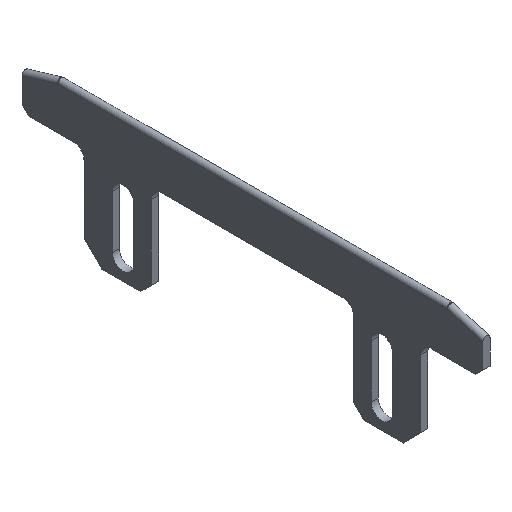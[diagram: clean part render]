
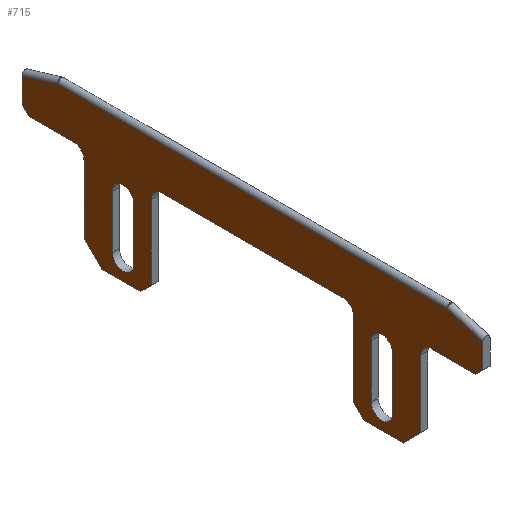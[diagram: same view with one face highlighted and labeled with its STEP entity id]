
A CAD part, isometric view. The second image highlights one B-rep face of the part: STEP entity #715.
In plain terms, the highlighted planar face has unit normal (-1, 0, 0).
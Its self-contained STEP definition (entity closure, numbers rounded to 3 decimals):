
#17=FACE_BOUND('',#107,.T.);
#18=FACE_BOUND('',#108,.T.);
#32=PLANE('',#779);
#66=FACE_OUTER_BOUND('',#106,.T.);
#106=EDGE_LOOP('',(#578,#579,#580,#581,#582,#583,#584,#585,#586,#587,#588,
#589,#590,#591,#592,#593,#594,#595,#596,#597,#598,#599,#600,#601));
#107=EDGE_LOOP('',(#602,#603,#604,#605));
#108=EDGE_LOOP('',(#606,#607,#608,#609));
#130=LINE('',#1025,#206);
#135=LINE('',#1040,#211);
#139=LINE('',#1052,#215);
#144=LINE('',#1067,#220);
#147=LINE('',#1086,#223);
#149=LINE('',#1100,#225);
#152=LINE('',#1107,#228);
#171=LINE('',#1150,#247);
#172=LINE('',#1153,#248);
#174=LINE('',#1156,#250);
#175=LINE('',#1158,#251);
#176=LINE('',#1160,#252);
#177=LINE('',#1162,#253);
#178=LINE('',#1163,#254);
#179=LINE('',#1165,#255);
#180=LINE('',#1167,#256);
#181=LINE('',#1169,#257);
#182=LINE('',#1170,#258);
#183=LINE('',#1172,#259);
#184=LINE('',#1173,#260);
#185=LINE('',#1178,#261);
#186=LINE('',#1181,#262);
#187=LINE('',#1186,#263);
#188=LINE('',#1189,#264);
#206=VECTOR('',#815,10.);
#211=VECTOR('',#828,10.);
#215=VECTOR('',#840,10.);
#220=VECTOR('',#853,10.);
#223=VECTOR('',#874,10.);
#225=VECTOR('',#892,10.);
#228=VECTOR('',#899,10.);
#247=VECTOR('',#930,10.);
#248=VECTOR('',#933,10.);
#250=VECTOR('',#937,10.);
#251=VECTOR('',#938,10.);
#252=VECTOR('',#939,10.);
#253=VECTOR('',#940,10.);
#254=VECTOR('',#941,10.);
#255=VECTOR('',#942,10.);
#256=VECTOR('',#943,10.);
#257=VECTOR('',#944,10.);
#258=VECTOR('',#945,10.);
#259=VECTOR('',#946,10.);
#260=VECTOR('',#947,10.);
#261=VECTOR('',#950,10.);
#262=VECTOR('',#953,10.);
#263=VECTOR('',#956,10.);
#264=VECTOR('',#959,10.);
#280=CIRCLE('',#738,3.);
#282=CIRCLE('',#742,3.);
#284=CIRCLE('',#746,3.);
#286=CIRCLE('',#750,3.);
#302=CIRCLE('',#780,3.);
#303=CIRCLE('',#781,3.);
#304=CIRCLE('',#782,3.);
#305=CIRCLE('',#783,3.);
#306=VERTEX_POINT('',#1015);
#307=VERTEX_POINT('',#1016);
#310=VERTEX_POINT('',#1024);
#312=VERTEX_POINT('',#1030);
#313=VERTEX_POINT('',#1031);
#316=VERTEX_POINT('',#1039);
#318=VERTEX_POINT('',#1045);
#320=VERTEX_POINT('',#1051);
#322=VERTEX_POINT('',#1057);
#323=VERTEX_POINT('',#1058);
#326=VERTEX_POINT('',#1066);
#331=VERTEX_POINT('',#1079);
#333=VERTEX_POINT('',#1084);
#337=VERTEX_POINT('',#1096);
#338=VERTEX_POINT('',#1103);
#357=VERTEX_POINT('',#1148);
#358=VERTEX_POINT('',#1152);
#359=VERTEX_POINT('',#1157);
#360=VERTEX_POINT('',#1159);
#361=VERTEX_POINT('',#1161);
#362=VERTEX_POINT('',#1164);
#363=VERTEX_POINT('',#1166);
#364=VERTEX_POINT('',#1168);
#365=VERTEX_POINT('',#1171);
#366=VERTEX_POINT('',#1174);
#367=VERTEX_POINT('',#1175);
#368=VERTEX_POINT('',#1177);
#369=VERTEX_POINT('',#1179);
#370=VERTEX_POINT('',#1182);
#371=VERTEX_POINT('',#1183);
#372=VERTEX_POINT('',#1185);
#373=VERTEX_POINT('',#1187);
#374=EDGE_CURVE('',#306,#307,#280,.T.);
#378=EDGE_CURVE('',#310,#307,#130,.T.);
#381=EDGE_CURVE('',#312,#313,#282,.T.);
#385=EDGE_CURVE('',#316,#313,#135,.T.);
#388=EDGE_CURVE('',#316,#318,#284,.T.);
#391=EDGE_CURVE('',#320,#318,#139,.T.);
#394=EDGE_CURVE('',#322,#323,#286,.T.);
#398=EDGE_CURVE('',#326,#323,#144,.T.);
#407=EDGE_CURVE('',#333,#331,#147,.T.);
#414=EDGE_CURVE('',#331,#337,#149,.T.);
#418=EDGE_CURVE('',#337,#338,#152,.T.);
#441=EDGE_CURVE('',#357,#333,#171,.T.);
#442=EDGE_CURVE('',#358,#338,#172,.T.);
#444=EDGE_CURVE('',#310,#357,#174,.T.);
#445=EDGE_CURVE('',#306,#359,#175,.T.);
#446=EDGE_CURVE('',#360,#359,#176,.T.);
#447=EDGE_CURVE('',#360,#361,#177,.T.);
#448=EDGE_CURVE('',#320,#361,#178,.T.);
#449=EDGE_CURVE('',#312,#362,#179,.T.);
#450=EDGE_CURVE('',#363,#362,#180,.T.);
#451=EDGE_CURVE('',#363,#364,#181,.T.);
#452=EDGE_CURVE('',#326,#364,#182,.T.);
#453=EDGE_CURVE('',#322,#365,#183,.T.);
#454=EDGE_CURVE('',#358,#365,#184,.T.);
#455=EDGE_CURVE('',#366,#367,#302,.T.);
#456=EDGE_CURVE('',#368,#366,#185,.T.);
#457=EDGE_CURVE('',#369,#368,#303,.T.);
#458=EDGE_CURVE('',#367,#369,#186,.T.);
#459=EDGE_CURVE('',#370,#371,#304,.T.);
#460=EDGE_CURVE('',#372,#370,#187,.T.);
#461=EDGE_CURVE('',#373,#372,#305,.T.);
#462=EDGE_CURVE('',#371,#373,#188,.T.);
#578=ORIENTED_EDGE('',*,*,#407,.F.);
#579=ORIENTED_EDGE('',*,*,#441,.F.);
#580=ORIENTED_EDGE('',*,*,#444,.F.);
#581=ORIENTED_EDGE('',*,*,#378,.T.);
#582=ORIENTED_EDGE('',*,*,#374,.F.);
#583=ORIENTED_EDGE('',*,*,#445,.T.);
#584=ORIENTED_EDGE('',*,*,#446,.F.);
#585=ORIENTED_EDGE('',*,*,#447,.T.);
#586=ORIENTED_EDGE('',*,*,#448,.F.);
#587=ORIENTED_EDGE('',*,*,#391,.T.);
#588=ORIENTED_EDGE('',*,*,#388,.F.);
#589=ORIENTED_EDGE('',*,*,#385,.T.);
#590=ORIENTED_EDGE('',*,*,#381,.F.);
#591=ORIENTED_EDGE('',*,*,#449,.T.);
#592=ORIENTED_EDGE('',*,*,#450,.F.);
#593=ORIENTED_EDGE('',*,*,#451,.T.);
#594=ORIENTED_EDGE('',*,*,#452,.F.);
#595=ORIENTED_EDGE('',*,*,#398,.T.);
#596=ORIENTED_EDGE('',*,*,#394,.F.);
#597=ORIENTED_EDGE('',*,*,#453,.T.);
#598=ORIENTED_EDGE('',*,*,#454,.F.);
#599=ORIENTED_EDGE('',*,*,#442,.T.);
#600=ORIENTED_EDGE('',*,*,#418,.F.);
#601=ORIENTED_EDGE('',*,*,#414,.F.);
#602=ORIENTED_EDGE('',*,*,#455,.F.);
#603=ORIENTED_EDGE('',*,*,#456,.F.);
#604=ORIENTED_EDGE('',*,*,#457,.F.);
#605=ORIENTED_EDGE('',*,*,#458,.F.);
#606=ORIENTED_EDGE('',*,*,#459,.F.);
#607=ORIENTED_EDGE('',*,*,#460,.F.);
#608=ORIENTED_EDGE('',*,*,#461,.F.);
#609=ORIENTED_EDGE('',*,*,#462,.F.);
#715=ADVANCED_FACE('',(#66,#17,#18),#32,.F.);
#738=AXIS2_PLACEMENT_3D('',#1017,#807,#808);
#742=AXIS2_PLACEMENT_3D('',#1032,#820,#821);
#746=AXIS2_PLACEMENT_3D('',#1046,#833,#834);
#750=AXIS2_PLACEMENT_3D('',#1059,#845,#846);
#779=AXIS2_PLACEMENT_3D('',#1155,#935,#936);
#780=AXIS2_PLACEMENT_3D('',#1176,#948,#949);
#781=AXIS2_PLACEMENT_3D('',#1180,#951,#952);
#782=AXIS2_PLACEMENT_3D('',#1184,#954,#955);
#783=AXIS2_PLACEMENT_3D('',#1188,#957,#958);
#807=DIRECTION('center_axis',(-1.,0.,0.));
#808=DIRECTION('ref_axis',(0.,-0.707,0.707));
#815=DIRECTION('',(0.,-1.,0.));
#820=DIRECTION('center_axis',(-1.,0.,0.));
#821=DIRECTION('ref_axis',(0.,-0.707,0.707));
#828=DIRECTION('',(0.,-1.,0.));
#833=DIRECTION('center_axis',(-1.,0.,0.));
#834=DIRECTION('ref_axis',(0.,0.707,0.707));
#840=DIRECTION('',(0.,0.,1.));
#845=DIRECTION('center_axis',(-1.,0.,0.));
#846=DIRECTION('ref_axis',(0.,0.707,0.707));
#853=DIRECTION('',(0.,0.,1.));
#874=DIRECTION('',(0.,-0.958,0.287));
#892=DIRECTION('',(0.,-1.,0.));
#899=DIRECTION('',(0.,-0.958,-0.287));
#930=DIRECTION('',(0.,0.,1.));
#933=DIRECTION('',(0.,0.,1.));
#935=DIRECTION('center_axis',(1.,0.,0.));
#936=DIRECTION('ref_axis',(0.,1.,0.));
#937=DIRECTION('',(0.,0.707,0.707));
#938=DIRECTION('',(0.,0.,-1.));
#939=DIRECTION('',(0.,0.707,0.707));
#940=DIRECTION('',(0.,-1.,0.));
#941=DIRECTION('',(0.,0.707,-0.707));
#942=DIRECTION('',(0.,0.,-1.));
#943=DIRECTION('',(0.,0.707,0.707));
#944=DIRECTION('',(0.,-1.,0.));
#945=DIRECTION('',(0.,0.707,-0.707));
#946=DIRECTION('',(0.,-1.,0.));
#947=DIRECTION('',(0.,0.707,-0.707));
#948=DIRECTION('center_axis',(-1.,0.,0.));
#949=DIRECTION('ref_axis',(0.,-1.,0.));
#950=DIRECTION('',(0.,0.,-1.));
#951=DIRECTION('center_axis',(-1.,0.,0.));
#952=DIRECTION('ref_axis',(0.,1.,0.));
#953=DIRECTION('',(0.,0.,1.));
#954=DIRECTION('center_axis',(-1.,0.,0.));
#955=DIRECTION('ref_axis',(0.,-1.,0.));
#956=DIRECTION('',(0.,0.,-1.));
#957=DIRECTION('center_axis',(-1.,0.,0.));
#958=DIRECTION('ref_axis',(0.,1.,0.));
#959=DIRECTION('',(0.,0.,1.));
#1015=CARTESIAN_POINT('',(21.,109.5,5.5));
#1016=CARTESIAN_POINT('',(21.,112.5,8.5));
#1017=CARTESIAN_POINT('Origin',(21.,112.5,5.5));
#1024=CARTESIAN_POINT('',(21.,125.,8.5));
#1025=CARTESIAN_POINT('',(21.,127.,8.5));
#1030=CARTESIAN_POINT('',(21.,33.5,5.5));
#1031=CARTESIAN_POINT('',(21.,36.5,8.5));
#1032=CARTESIAN_POINT('Origin',(21.,36.5,5.5));
#1039=CARTESIAN_POINT('',(21.,87.5,8.5));
#1040=CARTESIAN_POINT('',(21.,90.5,8.5));
#1045=CARTESIAN_POINT('',(21.,90.5,5.5));
#1046=CARTESIAN_POINT('Origin',(21.,87.5,5.5));
#1051=CARTESIAN_POINT('',(21.,90.5,-15.5));
#1052=CARTESIAN_POINT('',(21.,90.5,-18.5));
#1057=CARTESIAN_POINT('',(21.,11.5,8.5));
#1058=CARTESIAN_POINT('',(21.,14.5,5.5));
#1059=CARTESIAN_POINT('Origin',(21.,11.5,5.5));
#1066=CARTESIAN_POINT('',(21.,14.5,-13.5));
#1067=CARTESIAN_POINT('',(21.,14.5,-18.5));
#1079=CARTESIAN_POINT('',(21.,116.853,20.5));
#1084=CARTESIAN_POINT('',(21.,127.,17.456));
#1086=CARTESIAN_POINT('',(21.,96.736,26.535));
#1096=CARTESIAN_POINT('',(21.,7.147,20.5));
#1100=CARTESIAN_POINT('',(21.,94.5,20.5));
#1103=CARTESIAN_POINT('',(21.,-3.,17.456));
#1107=CARTESIAN_POINT('',(21.,27.264,26.535));
#1148=CARTESIAN_POINT('',(21.,127.,10.5));
#1150=CARTESIAN_POINT('',(21.,127.,8.5));
#1152=CARTESIAN_POINT('',(21.,-3.,10.5));
#1153=CARTESIAN_POINT('',(21.,-3.,8.5));
#1155=CARTESIAN_POINT('Origin',(21.,62.,1.5));
#1156=CARTESIAN_POINT('',(21.,108.,-8.5));
#1157=CARTESIAN_POINT('',(21.,109.5,-13.5));
#1158=CARTESIAN_POINT('',(21.,109.5,8.5));
#1159=CARTESIAN_POINT('',(21.,104.5,-18.5));
#1160=CARTESIAN_POINT('',(21.,100.125,-22.875));
#1161=CARTESIAN_POINT('',(21.,93.5,-18.5));
#1162=CARTESIAN_POINT('',(21.,109.5,-18.5));
#1163=CARTESIAN_POINT('',(21.,79.875,-4.875));
#1164=CARTESIAN_POINT('',(21.,33.5,-15.5));
#1165=CARTESIAN_POINT('',(21.,33.5,8.5));
#1166=CARTESIAN_POINT('',(21.,30.5,-18.5));
#1167=CARTESIAN_POINT('',(21.,44.125,-4.875));
#1168=CARTESIAN_POINT('',(21.,19.5,-18.5));
#1169=CARTESIAN_POINT('',(21.,33.5,-18.5));
#1170=CARTESIAN_POINT('',(21.,23.875,-22.875));
#1171=CARTESIAN_POINT('',(21.,-1.,8.5));
#1172=CARTESIAN_POINT('',(21.,14.5,8.5));
#1173=CARTESIAN_POINT('',(21.,16.,-8.5));
#1174=CARTESIAN_POINT('',(21.,28.5,-13.));
#1175=CARTESIAN_POINT('',(21.,22.5,-13.));
#1176=CARTESIAN_POINT('Origin',(21.,25.5,-13.));
#1177=CARTESIAN_POINT('',(21.,28.5,2.));
#1178=CARTESIAN_POINT('',(21.,28.5,-13.));
#1179=CARTESIAN_POINT('',(21.,22.5,2.));
#1180=CARTESIAN_POINT('Origin',(21.,25.5,2.));
#1181=CARTESIAN_POINT('',(21.,22.5,-13.));
#1182=CARTESIAN_POINT('',(21.,101.5,-13.));
#1183=CARTESIAN_POINT('',(21.,95.5,-13.));
#1184=CARTESIAN_POINT('Origin',(21.,98.5,-13.));
#1185=CARTESIAN_POINT('',(21.,101.5,2.));
#1186=CARTESIAN_POINT('',(21.,101.5,-13.));
#1187=CARTESIAN_POINT('',(21.,95.5,2.));
#1188=CARTESIAN_POINT('Origin',(21.,98.5,2.));
#1189=CARTESIAN_POINT('',(21.,95.5,-13.));
